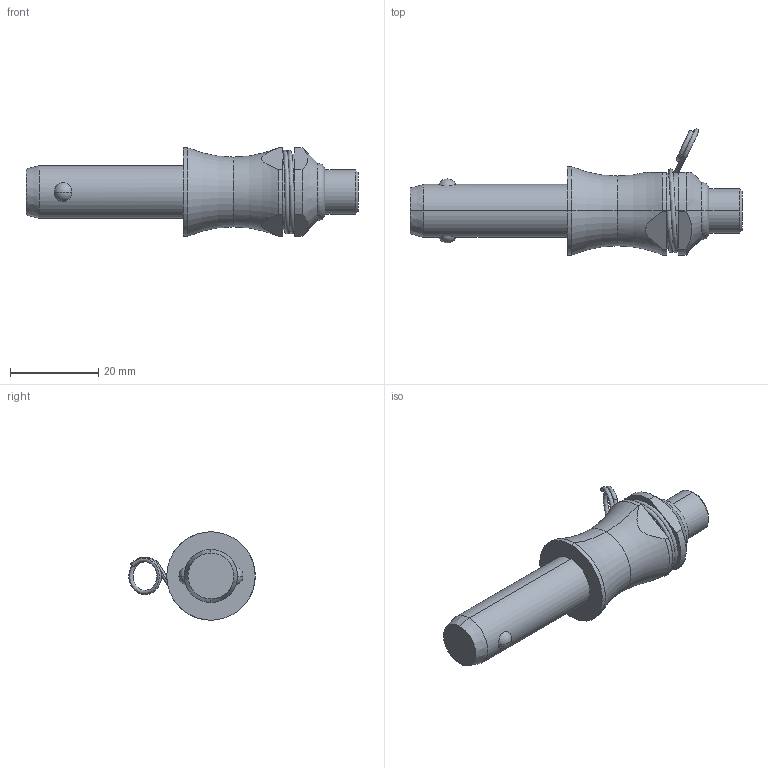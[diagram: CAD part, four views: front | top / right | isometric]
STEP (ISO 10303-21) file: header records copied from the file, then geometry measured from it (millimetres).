
FILE_DESCRIPTION (( 'STEP AP214' ), '1' );
FILE_NAME ('113.3-12-25.step', '2022-10-19T07:25:48', ( '' ), ( '' ), 'SwSTEP 2.0', 'SolidWorks 2022', '' );
FILE_SCHEMA (( 'AUTOMOTIVE_DESIGN' ));
Length unit declared in the file: millimetre
Products named in the file (3): 113.3-12-25; WB113.3_Öse^WB113.3_2.4; WB113.3_Kugelsperrbolzen^WB113.3_12-25
Assembly tree (2 placements, depth 2):
  113.3-12-25
    WB113.3_Kugelsperrbolzen^WB113.3_12-25
    WB113.3_Öse^WB113.3_2.4
Bounding box: 75.1 x 28.57 x 20 mm (x, y, z)
Volume: 12069.3 mm3; surface area: 4323.1 mm2
Topology: 2 solids, 2 shells, 53 faces, 114 edges, 70 vertices
Faces by surface type: cylinder 16, plane 13, bspline 8, torus 6, cone 6, sphere 4
Entity records: 3178 total; most frequent: CARTESIAN_POINT 1964, DIRECTION 242, ORIENTED_EDGE 228, EDGE_CURVE 114, AXIS2_PLACEMENT_3D 104, VERTEX_POINT 70, EDGE_LOOP 58, CIRCLE 54
